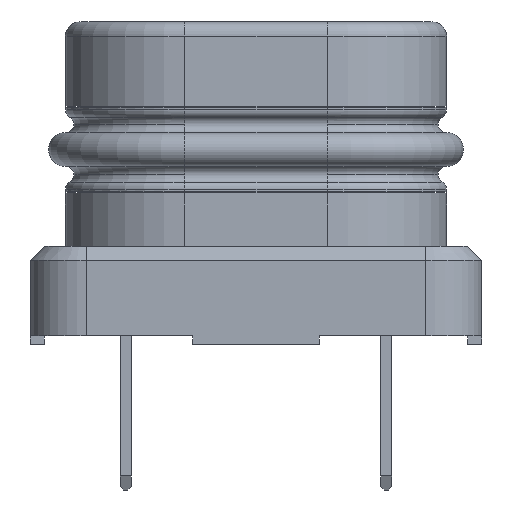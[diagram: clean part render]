
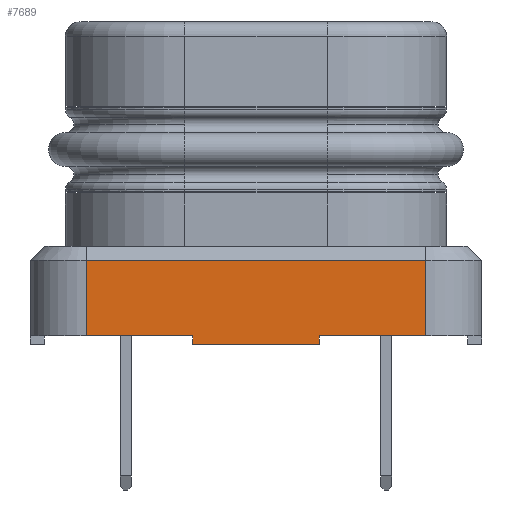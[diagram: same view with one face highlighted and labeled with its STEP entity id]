
A CAD part, left-side view. The second image highlights one B-rep face of the part: STEP entity #7689.
In plain terms, the highlighted planar face has unit normal (-1, 0, 0).
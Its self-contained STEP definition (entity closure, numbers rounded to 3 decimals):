
#990=DIRECTION('',(0.,1.,0.));
#991=VECTOR('',#990,3.8);
#992=CARTESIAN_POINT('',(-20.05,-6.05,52.14));
#993=LINE('',#992,#991);
#994=DIRECTION('',(0.,1.,0.));
#995=VECTOR('',#994,4.5);
#996=CARTESIAN_POINT('',(-20.05,-2.25,51.84));
#997=LINE('',#996,#995);
#998=DIRECTION('',(0.,0.,1.));
#999=VECTOR('',#998,0.3);
#1000=CARTESIAN_POINT('',(-20.05,2.25,51.84));
#1001=LINE('',#1000,#999);
#1002=DIRECTION('',(0.,1.,0.));
#1003=VECTOR('',#1002,3.8);
#1004=CARTESIAN_POINT('',(-20.05,2.25,52.14));
#1005=LINE('',#1004,#1003);
#1010=DIRECTION('',(0.,0.,1.));
#1011=VECTOR('',#1010,2.7);
#1012=CARTESIAN_POINT('',(-20.05,-6.05,52.14));
#1013=LINE('',#1012,#1011);
#1027=DIRECTION('',(0.,1.,0.));
#1028=VECTOR('',#1027,12.1);
#1029=CARTESIAN_POINT('',(-20.05,-6.05,54.84));
#1030=LINE('',#1029,#1028);
#1048=DIRECTION('',(0.,0.,-1.));
#1049=VECTOR('',#1048,2.7);
#1050=CARTESIAN_POINT('',(-20.05,6.05,54.84));
#1051=LINE('',#1050,#1049);
#1060=DIRECTION('',(0.,0.,1.));
#1061=VECTOR('',#1060,0.3);
#1062=CARTESIAN_POINT('',(-20.05,-2.25,51.84));
#1063=LINE('',#1062,#1061);
#5323=CARTESIAN_POINT('',(-20.05,-2.25,52.14));
#5324=VERTEX_POINT('',#5323);
#5325=CARTESIAN_POINT('',(-20.05,-6.05,52.14));
#5326=VERTEX_POINT('',#5325);
#5391=CARTESIAN_POINT('',(-20.05,6.05,52.14));
#5392=VERTEX_POINT('',#5391);
#5393=CARTESIAN_POINT('',(-20.05,2.25,52.14));
#5394=VERTEX_POINT('',#5393);
#5449=CARTESIAN_POINT('',(-20.05,2.25,51.84));
#5450=VERTEX_POINT('',#5449);
#5451=CARTESIAN_POINT('',(-20.05,-6.05,54.84));
#5452=VERTEX_POINT('',#5451);
#5453=CARTESIAN_POINT('',(-20.05,-2.25,51.84));
#5454=VERTEX_POINT('',#5453);
#5455=CARTESIAN_POINT('',(-20.05,6.05,54.84));
#5456=VERTEX_POINT('',#5455);
#7669=CARTESIAN_POINT('',(-20.05,8.05,55.34));
#7670=DIRECTION('',(-1.,0.,0.));
#7671=DIRECTION('',(0.,-1.,0.));
#7672=AXIS2_PLACEMENT_3D('',#7669,#7670,#7671);
#7673=PLANE('',#7672);
#7675=ORIENTED_EDGE('',*,*,#7674,.F.);
#7676=ORIENTED_EDGE('',*,*,#7061,.T.);
#7678=ORIENTED_EDGE('',*,*,#7677,.F.);
#7680=ORIENTED_EDGE('',*,*,#7679,.T.);
#7681=ORIENTED_EDGE('',*,*,#7661,.T.);
#7682=ORIENTED_EDGE('',*,*,#7197,.T.);
#7684=ORIENTED_EDGE('',*,*,#7683,.F.);
#7686=ORIENTED_EDGE('',*,*,#7685,.F.);
#7687=EDGE_LOOP('',(#7675,#7676,#7678,#7680,#7681,#7682,#7684,#7686));
#7688=FACE_OUTER_BOUND('',#7687,.F.);
#7689=ADVANCED_FACE('',(#7688),#7673,.T.);
#7061=EDGE_CURVE('',#5326,#5324,#993,.T.);
#7197=EDGE_CURVE('',#5394,#5392,#1005,.T.);
#7661=EDGE_CURVE('',#5450,#5394,#1001,.T.);
#7674=EDGE_CURVE('',#5326,#5452,#1013,.T.);
#7677=EDGE_CURVE('',#5454,#5324,#1063,.T.);
#7679=EDGE_CURVE('',#5454,#5450,#997,.T.);
#7683=EDGE_CURVE('',#5456,#5392,#1051,.T.);
#7685=EDGE_CURVE('',#5452,#5456,#1030,.T.);
